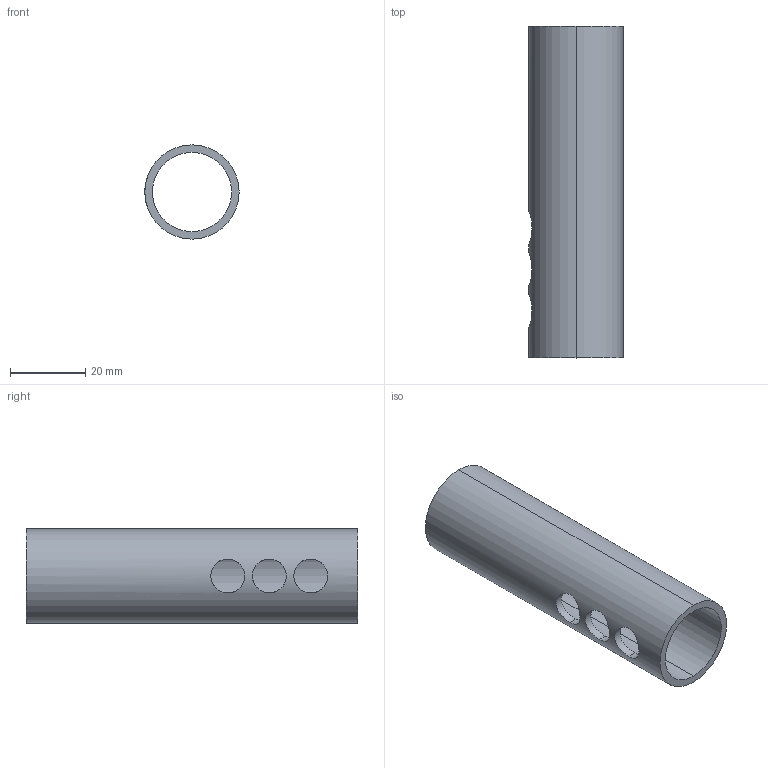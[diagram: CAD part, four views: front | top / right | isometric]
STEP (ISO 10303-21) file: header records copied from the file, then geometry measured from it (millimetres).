
FILE_DESCRIPTION (( 'STEP AP214' ), '1' );
FILE_NAME ('ÏÄÀÐ.711541.001 òðóáà çîíäà Ñ5.STEP', '2025-05-06T12:08:04', ( '' ), ( '' ), 'SwSTEP 2.0', 'SolidWorks 2022', '' );
FILE_SCHEMA (( 'AUTOMOTIVE_DESIGN' ));
Length unit declared in the file: millimetre
Products named in the file (1): ПДАР.711541.001 труба зонда С5
Bounding box: 25 x 88 x 25 mm (x, y, z)
Volume: 12327.6 mm3; surface area: 12793.3 mm2
Topology: 1 solids, 1 shells, 12 faces, 30 edges, 20 vertices
Faces by surface type: cylinder 10, plane 2
Entity records: 830 total; most frequent: CARTESIAN_POINT 483, ORIENTED_EDGE 60, DIRECTION 52, EDGE_CURVE 30, AXIS2_PLACEMENT_3D 21, EDGE_LOOP 20, VERTEX_POINT 20, FACE_OUTER_BOUND 12
